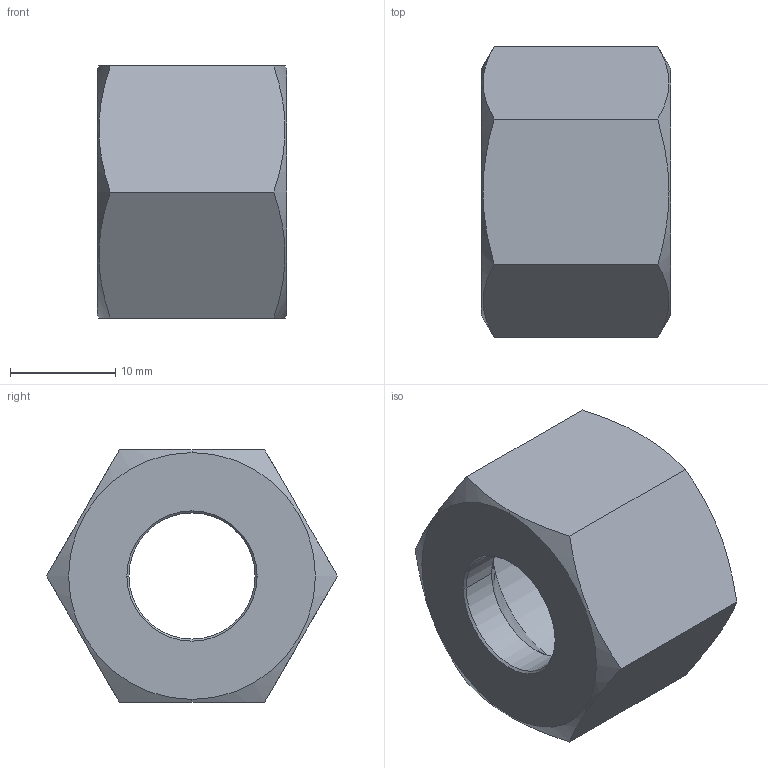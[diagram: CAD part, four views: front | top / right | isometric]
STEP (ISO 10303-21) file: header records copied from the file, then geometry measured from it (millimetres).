
FILE_DESCRIPTION((''),'2;1');
FILE_NAME('100217.stp','2006-03-06T15:10:38',('Dario Falcomer'),('CAST S.p.A.'),'AutoCAD STEP 2000i','AutoCAD 2000i',', , ');
FILE_SCHEMA(('CONFIG_CONTROL_DESIGN'));
Length unit declared in the file: millimetre
Products named in the file (2): 100217.0; CHIAVE_DADI#0
Assembly tree (1 placements, depth 2):
  100217.0
    CHIAVE_DADI#0
Bounding box: 18 x 27.71 x 24 mm (x, y, z)
Volume: 4863.2 mm3; surface area: 3008.6 mm2
Topology: 1 solids, 1 shells, 22 faces, 52 edges, 32 vertices
Faces by surface type: cone 10, plane 8, cylinder 4
Entity records: 725 total; most frequent: CARTESIAN_POINT 140, ORIENTED_EDGE 104, DIRECTION 100, EDGE_CURVE 52, AXIS2_PLACEMENT_3D 40, VERTEX_POINT 32, EDGE_LOOP 24, FACE_OUTER_BOUND 22
